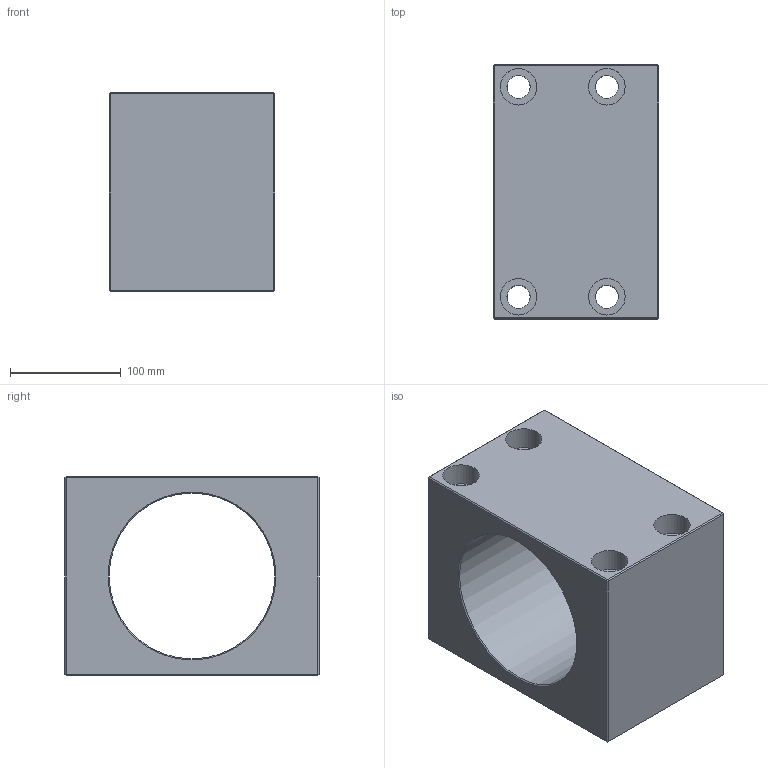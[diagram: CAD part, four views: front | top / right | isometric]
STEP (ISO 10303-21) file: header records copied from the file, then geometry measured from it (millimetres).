
FILE_DESCRIPTION(('STEP AP214'), '1');
FILE_NAME('Äåðæàòåëü ãàéêè ØÂÏ MGD100', '', ('UNSPECIFIED'), ('UNSPECIFIED'), 'C3D Converter', 'C3D Toolkit', '');
FILE_SCHEMA(('AUTOMOTIVE_DESIGN { 1 0 10303 214 3 1 1}'));
Length unit declared in the file: millimetre
Bounding box: 150 x 230 x 180 mm (x, y, z)
Volume: 3217187.6 mm3; surface area: 300491.8 mm2
Topology: 1 solids, 1 shells, 65 faces, 147 edges, 84 vertices
Faces by surface type: plane 30, cone 18, cylinder 17
Full cylindrical faces by diameter (mm): 13.835 x8, 20.9 x4, 33 x4, 150 x1
Entity records: 2656 total; most frequent: CARTESIAN_POINT 801, DIRECTION 276, ORIENTED_EDGE 208, EDGE_LOOP 118, AXIS2_PLACEMENT_3D 114, EDGE_CURVE 104, VERTEX_POINT 76, COLOUR_RGB 66
